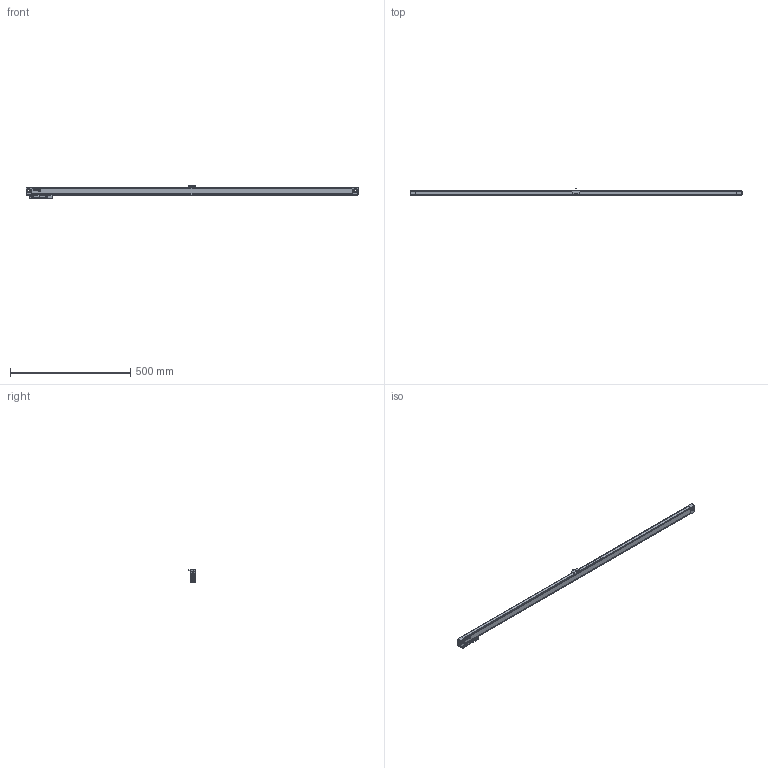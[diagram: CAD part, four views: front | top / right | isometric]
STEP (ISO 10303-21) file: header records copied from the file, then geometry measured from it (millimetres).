
FILE_DESCRIPTION(('Creo Elements/Direct Modeling STEP Export'),'2;1');
FILE_NAME('REGLA S3-1240-T.stp','2020-10-07T15:34:37',(''),(''),'Creo Elements/Direct Modeling STEP processor for AP214 (Solid Model)','Creo Elements/Direct Modeling 19.0G 27-Nov-2017 (C) Parametric Technology GmbH','');
FILE_SCHEMA(('AUTOMOTIVE_DESIGN { 1 0 10303 214 1 1 1 1 }'));
Length unit declared in the file: millimetre
Products named in the file (4): REGLA_S3-1240; CABEZA_ROSCADA_REGLA_S3; SOPORTE_INTERMEDIO_S3; REGLA_S3-1240-T
Assembly tree (3 placements, depth 2):
  REGLA_S3-1240-T
    SOPORTE_INTERMEDIO_S3
    CABEZA_ROSCADA_REGLA_S3
    REGLA_S3-1240
Bounding box: 1378 x 26.5 x 53.7 mm (x, y, z)
Volume: 761945.4 mm3; surface area: 184044.6 mm2
Topology: 3 solids, 14 shells, 1525 faces, 4991 edges, 3567 vertices
Faces by surface type: plane 1015, cylinder 368, cone 123, torus 10, bspline 9
Entity records: 64598 total; most frequent: CARTESIAN_POINT 12915, ORIENTED_EDGE 9958, DIRECTION 8020, EDGE_CURVE 4977, VECTOR 3762, LINE 3762, VERTEX_POINT 3565, AXIS2_PLACEMENT_3D 2129
